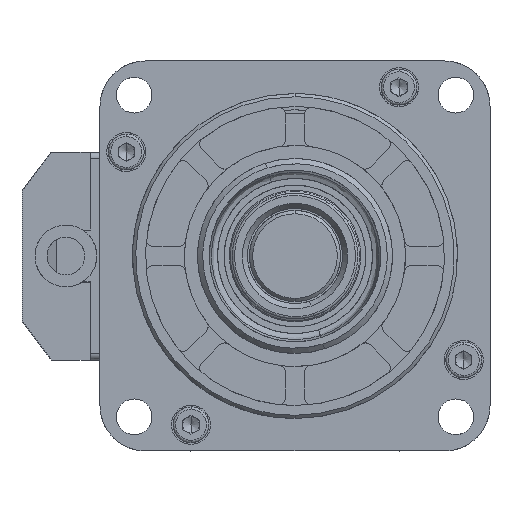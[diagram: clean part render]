
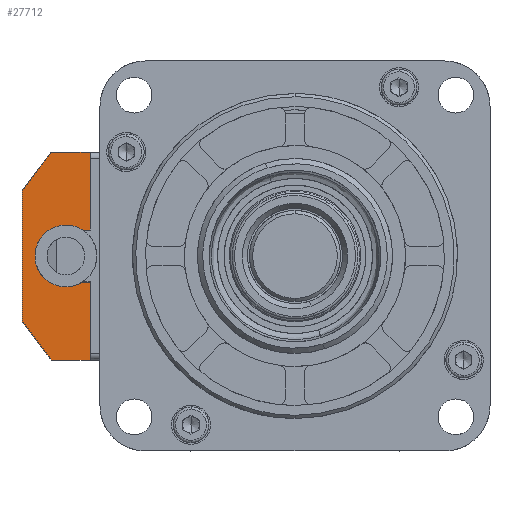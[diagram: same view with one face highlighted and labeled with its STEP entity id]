
A CAD part, left-side view. The second image highlights one B-rep face of the part: STEP entity #27712.
In plain terms, the highlighted free-form (B-spline) face has degree [1, 1] with [2, 2] control points.
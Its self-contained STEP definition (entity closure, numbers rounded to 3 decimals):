
#60 = VERTEX_POINT ( 'NONE', #19612 ) ;
#1988 = CARTESIAN_POINT ( 'NONE',  ( 24.438, 32.819, 4. ) ) ;
#2013 = ORIENTED_EDGE ( 'NONE', *, *, #23936, .T. ) ;
#2403 = CARTESIAN_POINT ( 'NONE',  ( 24.438, 32.819, 16. ) ) ;
#3045 = CARTESIAN_POINT ( 'NONE',  ( 24.438, 32.819, -15. ) ) ;
#3324 = CARTESIAN_POINT ( 'NONE',  ( 24.438, 32.819, 16. ) ) ;
#3454 = ORIENTED_EDGE ( 'NONE', *, *, #33807, .T. ) ;
#4667 = CARTESIAN_POINT ( 'NONE',  ( 24.438, 40.215, -1.045 ) ) ;
#4707 = CARTESIAN_POINT ( 'NONE',  ( 24.438, 36.319, 4. ) ) ;
#4858 = CARTESIAN_POINT ( 'NONE',  ( 24.438, 39.519, -2.457 ) ) ;
#4986 = EDGE_CURVE ( 'NONE', #5641, #50862, #26409, .T. ) ;
#5019 = B_SPLINE_CURVE_WITH_KNOTS ( 'NONE', 1,
 ( #57932, #3045 ),
 .UNSPECIFIED., .F., .F.,
 ( 2, 2 ),
 ( 0., 0.083 ),
 .UNSPECIFIED. ) ;
#5641 = VERTEX_POINT ( 'NONE', #48305 ) ;
#5841 = CARTESIAN_POINT ( 'NONE',  ( 24.438, 38.819, 16. ) ) ;
#5853 = B_SPLINE_CURVE_WITH_KNOTS ( 'NONE', 1,
 ( #24157, #28780 ),
 .UNSPECIFIED., .F., .F.,
 ( 2, 2 ),
 ( 0., 0.917 ),
 .UNSPECIFIED. ) ;
#5885 = VERTEX_POINT ( 'NONE', #27514 ) ;
#6799 = B_SPLINE_CURVE_WITH_KNOTS ( 'NONE', 1,
 ( #54235, #13180 ),
 .UNSPECIFIED., .F., .F.,
 ( 2, 2 ),
 ( 0., 1. ),
 .UNSPECIFIED. ) ;
#6892 = ORIENTED_EDGE ( 'NONE', *, *, #44224, .F. ) ;
#8037 = CARTESIAN_POINT ( 'NONE',  ( 24.438, 43.319, -10. ) ) ;
#8177 = B_SPLINE_CURVE_WITH_KNOTS ( 'NONE', 1,
 ( #43217, #11288 ),
 .UNSPECIFIED., .F., .F.,
 ( 2, 2 ),
 ( 0., 1. ),
 .UNSPECIFIED. ) ;
#8770 = CARTESIAN_POINT ( 'NONE',  ( 24.438, 38.819, 16. ) ) ;
#9044 = EDGE_CURVE ( 'NONE', #49764, #44629, #6799, .T. ) ;
#9339 = CARTESIAN_POINT ( 'NONE',  ( 24.438, 37.364, 3.897 ) ) ;
#9501 = CARTESIAN_POINT ( 'NONE',  ( 24.438, 38.335, -3.494 ) ) ;
#9557 = ORIENTED_EDGE ( 'NONE', *, *, #4986, .T. ) ;
#10273 = CARTESIAN_POINT ( 'NONE',  ( 24.438, 38.819, -16. ) ) ;
#11288 = CARTESIAN_POINT ( 'NONE',  ( 24.438, 36.319, 4. ) ) ;
#11985 = B_SPLINE_CURVE_WITH_KNOTS ( 'NONE', 1,
 ( #35120, #16923 ),
 .UNSPECIFIED., .F., .F.,
 ( 2, 2 ),
 ( 0., 1. ),
 .UNSPECIFIED. ) ;
#13180 = CARTESIAN_POINT ( 'NONE',  ( 24.438, 38.819, -16. ) ) ;
#13931 = CARTESIAN_POINT ( 'NONE',  ( 24.438, 38.776, 3.2 ) ) ;
#14082 = CARTESIAN_POINT ( 'NONE',  ( 24.438, 36.844, -4. ) ) ;
#16600 = ORIENTED_EDGE ( 'NONE', *, *, #37748, .F. ) ;
#16916 = ORIENTED_EDGE ( 'NONE', *, *, #54644, .F. ) ;
#16923 = CARTESIAN_POINT ( 'NONE',  ( 24.438, 32.819, -4. ) ) ;
#17361 = EDGE_CURVE ( 'NONE', #49764, #28450, #5019, .T. ) ;
#17831 = EDGE_CURVE ( 'NONE', #29254, #28450, #5853, .T. ) ;
#18522 = CARTESIAN_POINT ( 'NONE',  ( 24.438, 39.813, 2.016 ) ) ;
#18639 = EDGE_LOOP ( 'NONE', ( #2013, #46463, #9557, #41835, #29717, #40828, #40018, #25138, #3454, #6892, #16916, #16600, #45209 ) ) ;
#19430 = CARTESIAN_POINT ( 'NONE',  ( 24.438, 43.319, -10. ) ) ;
#19612 = CARTESIAN_POINT ( 'NONE',  ( 24.438, 32.819, 16. ) ) ;
#20279 = EDGE_CURVE ( 'NONE', #57474, #5641, #58952, .T. ) ;
#21016 = CARTESIAN_POINT ( 'NONE',  ( 24.438, 32.819, 16. ) ) ;
#23120 = CARTESIAN_POINT ( 'NONE',  ( 24.438, 40.319, 0.525 ) ) ;
#23936 = EDGE_CURVE ( 'NONE', #45486, #57474, #8177, .T. ) ;
#24134 = CARTESIAN_POINT ( 'NONE',  ( 24.438, 32.819, -4. ) ) ;
#24157 = CARTESIAN_POINT ( 'NONE',  ( 24.438, 32.819, -4. ) ) ;
#25024 = B_SPLINE_CURVE_WITH_KNOTS ( 'NONE', 1,
 ( #3324, #8770 ),
 .UNSPECIFIED., .F., .F.,
 ( 2, 2 ),
 ( 0., 1. ),
 .UNSPECIFIED. ) ;
#25138 = ORIENTED_EDGE ( 'NONE', *, *, #50819, .T. ) ;
#26372 = CARTESIAN_POINT ( 'NONE',  ( 24.438, 32.819, 4. ) ) ;
#26409 = B_SPLINE_CURVE_WITH_KNOTS ( 'NONE', 3,
 ( #27643, #27259, #4667, #32249, #4858, #36869, #9501, #41419, #14082, #46019 ),
 .UNSPECIFIED., .F., .F.,
 ( 4, 2, 2, 2, 4 ),
 ( 0., 0.393, 0.785, 1.178, 1.571 ),
 .UNSPECIFIED. ) ;
#26602 = VERTEX_POINT ( 'NONE', #36226 ) ;
#27259 = CARTESIAN_POINT ( 'NONE',  ( 24.438, 40.319, -0.525 ) ) ;
#27307 = CARTESIAN_POINT ( 'NONE',  ( 24.438, 36.844, 4. ) ) ;
#27514 = CARTESIAN_POINT ( 'NONE',  ( 24.438, 32.819, 15. ) ) ;
#27643 = CARTESIAN_POINT ( 'NONE',  ( 24.438, 40.319, 0. ) ) ;
#27712 = ADVANCED_FACE ( 'NONE', ( #53523 ), #42654, .T. ) ;
#28450 = VERTEX_POINT ( 'NONE', #56795 ) ;
#28780 = CARTESIAN_POINT ( 'NONE',  ( 24.438, 32.819, -15. ) ) ;
#28963 = B_SPLINE_CURVE_WITH_KNOTS ( 'NONE', 3,
 ( #10273, #37600, #46767, #19430 ),
 .UNSPECIFIED., .F., .F.,
 ( 4, 4 ),
 ( 0., 1. ),
 .UNSPECIFIED. ) ;
#29254 = VERTEX_POINT ( 'NONE', #24134 ) ;
#29717 = ORIENTED_EDGE ( 'NONE', *, *, #17831, .T. ) ;
#29950 = B_SPLINE_CURVE_WITH_KNOTS ( 'NONE', 1,
 ( #50882, #50680 ),
 .UNSPECIFIED., .F., .F.,
 ( 2, 2 ),
 ( 0., 1. ),
 .UNSPECIFIED. ) ;
#32249 = CARTESIAN_POINT ( 'NONE',  ( 24.438, 39.813, -2.016 ) ) ;
#32343 = B_SPLINE_CURVE_WITH_KNOTS ( 'NONE', 1,
 ( #43750, #21016 ),
 .UNSPECIFIED., .F., .F.,
 ( 2, 2 ),
 ( 0.917, 1. ),
 .UNSPECIFIED. ) ;
#33211 = CARTESIAN_POINT ( 'NONE',  ( 24.438, 36.319, -4. ) ) ;
#33807 = EDGE_CURVE ( 'NONE', #57442, #26602, #29950, .T. ) ;
#33917 = EDGE_CURVE ( 'NONE', #50862, #29254, #11985, .T. ) ;
#34402 = CARTESIAN_POINT ( 'NONE',  ( 24.438, 32.819, -16. ) ) ;
#34811 = CARTESIAN_POINT ( 'NONE',  ( 24.438, 32.819, -16. ) ) ;
#35120 = CARTESIAN_POINT ( 'NONE',  ( 24.438, 36.319, -4. ) ) ;
#35913 = EDGE_CURVE ( 'NONE', #5885, #45486, #47935, .T. ) ;
#36226 = CARTESIAN_POINT ( 'NONE',  ( 24.438, 43.319, 10. ) ) ;
#36869 = CARTESIAN_POINT ( 'NONE',  ( 24.438, 38.776, -3.2 ) ) ;
#37600 = CARTESIAN_POINT ( 'NONE',  ( 24.438, 40.319, -14. ) ) ;
#37746 = CARTESIAN_POINT ( 'NONE',  ( 24.438, 38.819, -16. ) ) ;
#37748 = EDGE_CURVE ( 'NONE', #5885, #60, #32343, .T. ) ;
#38148 = B_SPLINE_CURVE_WITH_KNOTS ( 'NONE', 1,
 ( #46271, #50859 ),
 .UNSPECIFIED., .F., .F.,
 ( 2, 2 ),
 ( 0., 1. ),
 .UNSPECIFIED. ) ;
#38833 = VERTEX_POINT ( 'NONE', #5841 ) ;
#40018 = ORIENTED_EDGE ( 'NONE', *, *, #9044, .T. ) ;
#40828 = ORIENTED_EDGE ( 'NONE', *, *, #17361, .F. ) ;
#41278 = CARTESIAN_POINT ( 'NONE',  ( 24.438, 38.335, 3.494 ) ) ;
#41419 = CARTESIAN_POINT ( 'NONE',  ( 24.438, 37.364, -3.897 ) ) ;
#41835 = ORIENTED_EDGE ( 'NONE', *, *, #33917, .T. ) ;
#42654 = B_SPLINE_SURFACE_WITH_KNOTS ( 'NONE', 1, 1, ( 
 ( #57103, #43389 ),
 ( #2403, #34402 ) ),
 .UNSPECIFIED., .F., .F., .F.,
 ( 2, 2 ),
 ( 2, 2 ),
 ( 0., 1. ),
 ( 0., 1. ),
 .UNSPECIFIED. ) ;
#43007 = CARTESIAN_POINT ( 'NONE',  ( 24.438, 32.819, 15. ) ) ;
#43217 = CARTESIAN_POINT ( 'NONE',  ( 24.438, 32.819, 4. ) ) ;
#43389 = CARTESIAN_POINT ( 'NONE',  ( 24.438, 43.319, -16. ) ) ;
#43750 = CARTESIAN_POINT ( 'NONE',  ( 24.438, 32.819, 15. ) ) ;
#44224 = EDGE_CURVE ( 'NONE', #38833, #26602, #38148, .T. ) ;
#44629 = VERTEX_POINT ( 'NONE', #37746 ) ;
#45209 = ORIENTED_EDGE ( 'NONE', *, *, #35913, .T. ) ;
#45486 = VERTEX_POINT ( 'NONE', #26372 ) ;
#45882 = CARTESIAN_POINT ( 'NONE',  ( 24.438, 39.519, 2.457 ) ) ;
#46019 = CARTESIAN_POINT ( 'NONE',  ( 24.438, 36.319, -4. ) ) ;
#46271 = CARTESIAN_POINT ( 'NONE',  ( 24.438, 38.819, 16. ) ) ;
#46463 = ORIENTED_EDGE ( 'NONE', *, *, #20279, .T. ) ;
#46767 = CARTESIAN_POINT ( 'NONE',  ( 24.438, 41.819, -12. ) ) ;
#47935 = B_SPLINE_CURVE_WITH_KNOTS ( 'NONE', 1,
 ( #43007, #1988 ),
 .UNSPECIFIED., .F., .F.,
 ( 2, 2 ),
 ( 0.083, 1. ),
 .UNSPECIFIED. ) ;
#48305 = CARTESIAN_POINT ( 'NONE',  ( 24.438, 40.319, 0. ) ) ;
#49764 = VERTEX_POINT ( 'NONE', #34811 ) ;
#50460 = CARTESIAN_POINT ( 'NONE',  ( 24.438, 40.215, 1.045 ) ) ;
#50680 = CARTESIAN_POINT ( 'NONE',  ( 24.438, 43.319, 10. ) ) ;
#50819 = EDGE_CURVE ( 'NONE', #44629, #57442, #28963, .T. ) ;
#50859 = CARTESIAN_POINT ( 'NONE',  ( 24.438, 43.319, 10. ) ) ;
#50862 = VERTEX_POINT ( 'NONE', #33211 ) ;
#50882 = CARTESIAN_POINT ( 'NONE',  ( 24.438, 43.319, -10. ) ) ;
#53523 = FACE_OUTER_BOUND ( 'NONE', #18639, .T. ) ;
#54235 = CARTESIAN_POINT ( 'NONE',  ( 24.438, 32.819, -16. ) ) ;
#54644 = EDGE_CURVE ( 'NONE', #60, #38833, #25024, .T. ) ;
#55001 = CARTESIAN_POINT ( 'NONE',  ( 24.438, 40.319, 0. ) ) ;
#56795 = CARTESIAN_POINT ( 'NONE',  ( 24.438, 32.819, -15. ) ) ;
#57103 = CARTESIAN_POINT ( 'NONE',  ( 24.438, 43.319, 16. ) ) ;
#57442 = VERTEX_POINT ( 'NONE', #8037 ) ;
#57474 = VERTEX_POINT ( 'NONE', #58866 ) ;
#57932 = CARTESIAN_POINT ( 'NONE',  ( 24.438, 32.819, -16. ) ) ;
#58866 = CARTESIAN_POINT ( 'NONE',  ( 24.438, 36.319, 4. ) ) ;
#58952 = B_SPLINE_CURVE_WITH_KNOTS ( 'NONE', 3,
 ( #4707, #27307, #9339, #41278, #13931, #45882, #18522, #50460, #23120, #55001 ),
 .UNSPECIFIED., .F., .F.,
 ( 4, 2, 2, 2, 4 ),
 ( 0., 0.393, 0.785, 1.178, 1.571 ),
 .UNSPECIFIED. ) ;
